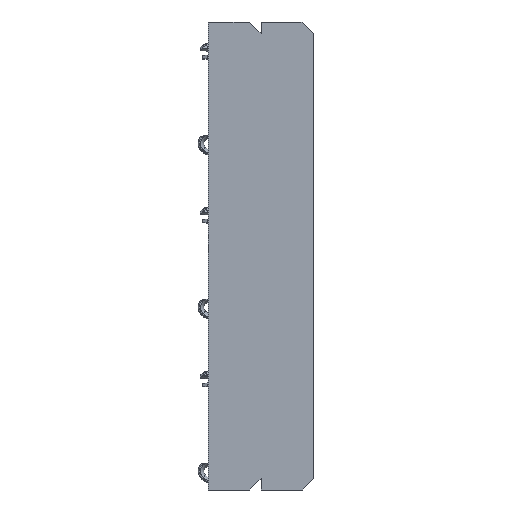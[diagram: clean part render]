
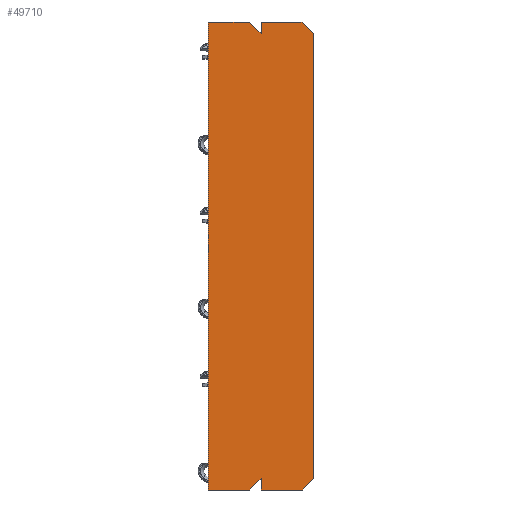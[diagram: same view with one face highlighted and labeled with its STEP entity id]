
A CAD part, front view. The second image highlights one B-rep face of the part: STEP entity #49710.
In plain terms, the highlighted planar face has unit normal (0, -1, 0).
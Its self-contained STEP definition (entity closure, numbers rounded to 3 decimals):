
#3462=FACE_OUTER_BOUND('',#6130,.T.);
#6130=EDGE_LOOP('',(#40465,#40466,#40467,#40468,#40469,#40470,#40471,#40472,
#40473,#40474,#40475,#40476));
#9158=LINE('',#72714,#14109);
#11794=LINE('',#94266,#16745);
#11796=LINE('',#94270,#16747);
#11800=LINE('',#94278,#16751);
#11807=LINE('',#94290,#16758);
#11818=LINE('',#94323,#16769);
#11819=LINE('',#94325,#16770);
#11823=LINE('',#94332,#16774);
#11825=LINE('',#94337,#16776);
#11827=LINE('',#94340,#16778);
#11830=LINE('',#94345,#16781);
#11831=LINE('',#94346,#16782);
#14109=VECTOR('',#57009,10.);
#16745=VECTOR('',#63839,10.);
#16747=VECTOR('',#63843,10.);
#16751=VECTOR('',#63849,10.);
#16758=VECTOR('',#63858,10.);
#16769=VECTOR('',#63903,10.);
#16770=VECTOR('',#63904,10.);
#16774=VECTOR('',#63912,10.);
#16776=VECTOR('',#63916,10.);
#16778=VECTOR('',#63920,10.);
#16781=VECTOR('',#63925,10.);
#16782=VECTOR('',#63926,10.);
#19056=VERTEX_POINT('',#72711);
#19057=VERTEX_POINT('',#72713);
#21687=VERTEX_POINT('',#94263);
#21688=VERTEX_POINT('',#94265);
#21689=VERTEX_POINT('',#94269);
#21691=VERTEX_POINT('',#94276);
#21692=VERTEX_POINT('',#94277);
#21696=VERTEX_POINT('',#94288);
#21700=VERTEX_POINT('',#94320);
#21702=VERTEX_POINT('',#94324);
#21705=VERTEX_POINT('',#94336);
#21706=VERTEX_POINT('',#94344);
#24137=EDGE_CURVE('',#19057,#19056,#9158,.T.);
#28114=EDGE_CURVE('',#21687,#21688,#11794,.T.);
#28116=EDGE_CURVE('',#21689,#21688,#11796,.T.);
#28120=EDGE_CURVE('',#21691,#21692,#11800,.T.);
#28127=EDGE_CURVE('',#21691,#21696,#11807,.T.);
#28144=EDGE_CURVE('',#21696,#21700,#11818,.T.);
#28145=EDGE_CURVE('',#21702,#21689,#11819,.T.);
#28149=EDGE_CURVE('',#21687,#21692,#11823,.T.);
#28151=EDGE_CURVE('',#21702,#21705,#11825,.T.);
#28153=EDGE_CURVE('',#19056,#21705,#11827,.T.);
#28156=EDGE_CURVE('',#21706,#21700,#11830,.T.);
#28157=EDGE_CURVE('',#21706,#19057,#11831,.T.);
#40465=ORIENTED_EDGE('',*,*,#28151,.F.);
#40466=ORIENTED_EDGE('',*,*,#28145,.T.);
#40467=ORIENTED_EDGE('',*,*,#28116,.T.);
#40468=ORIENTED_EDGE('',*,*,#28114,.F.);
#40469=ORIENTED_EDGE('',*,*,#28149,.T.);
#40470=ORIENTED_EDGE('',*,*,#28120,.F.);
#40471=ORIENTED_EDGE('',*,*,#28127,.T.);
#40472=ORIENTED_EDGE('',*,*,#28144,.T.);
#40473=ORIENTED_EDGE('',*,*,#28156,.F.);
#40474=ORIENTED_EDGE('',*,*,#28157,.T.);
#40475=ORIENTED_EDGE('',*,*,#24137,.T.);
#40476=ORIENTED_EDGE('',*,*,#28153,.T.);
#44850=PLANE('',#53394);
#49710=ADVANCED_FACE('',(#3462),#44850,.T.);
#53394=AXIS2_PLACEMENT_3D('',#94343,#63923,#63924);
#57009=DIRECTION('',(0.,0.,-1.));
#63839=DIRECTION('',(-0.707,0.,-0.707));
#63843=DIRECTION('',(1.,0.,0.));
#63849=DIRECTION('',(0.707,0.,-0.707));
#63858=DIRECTION('',(-1.,0.,0.));
#63903=DIRECTION('',(0.,0.,-1.));
#63904=DIRECTION('',(0.,0.,-1.));
#63912=DIRECTION('',(0.,0.,1.));
#63916=DIRECTION('',(-0.707,0.,-0.707));
#63920=DIRECTION('',(1.,0.,0.));
#63923=DIRECTION('center_axis',(0.,-1.,0.));
#63924=DIRECTION('ref_axis',(0.,0.,-1.));
#63925=DIRECTION('',(0.707,0.,-0.707));
#63926=DIRECTION('',(-1.,0.,0.));
#72711=CARTESIAN_POINT('',(-11.25,-11.25,-100.));
#72713=CARTESIAN_POINT('',(-11.25,-11.25,100.));
#72714=CARTESIAN_POINT('',(-11.25,-11.25,0.));
#94263=CARTESIAN_POINT('',(33.75,-11.25,-95.));
#94265=CARTESIAN_POINT('',(28.75,-11.25,-100.));
#94266=CARTESIAN_POINT('',(56.25,-11.25,-72.5));
#94269=CARTESIAN_POINT('',(11.25,-11.25,-100.));
#94270=CARTESIAN_POINT('',(11.25,-11.25,-100.));
#94276=CARTESIAN_POINT('',(28.75,-11.25,100.));
#94277=CARTESIAN_POINT('',(33.75,-11.25,95.));
#94278=CARTESIAN_POINT('',(56.25,-11.25,72.5));
#94288=CARTESIAN_POINT('',(11.25,-11.25,100.));
#94290=CARTESIAN_POINT('',(11.25,-11.25,100.));
#94320=CARTESIAN_POINT('',(11.25,-11.25,95.));
#94323=CARTESIAN_POINT('',(11.25,-11.25,0.));
#94324=CARTESIAN_POINT('',(11.25,-11.25,-95.));
#94325=CARTESIAN_POINT('',(11.25,-11.25,0.));
#94332=CARTESIAN_POINT('',(33.75,-11.25,0.));
#94336=CARTESIAN_POINT('',(6.25,-11.25,-100.));
#94337=CARTESIAN_POINT('',(33.75,-11.25,-72.5));
#94340=CARTESIAN_POINT('',(-11.25,-11.25,-100.));
#94343=CARTESIAN_POINT('Origin',(11.25,-11.25,0.));
#94344=CARTESIAN_POINT('',(6.25,-11.25,100.));
#94345=CARTESIAN_POINT('',(33.75,-11.25,72.5));
#94346=CARTESIAN_POINT('',(-11.25,-11.25,100.));
